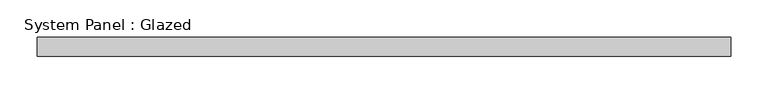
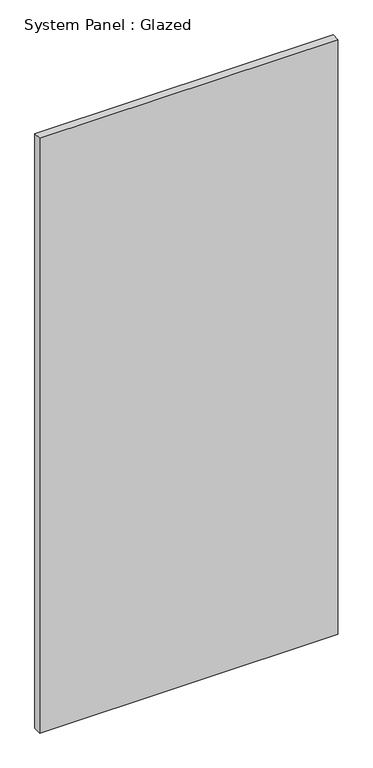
"""IFC4 building model written with IfcOpenShell, lengths in millimetres: plate geometry, System Panel : Glazed."""

from ifc_helpers import new_model, si_unit, origin, origin_with_axes, place, context, project, spatial, polyline, outline, extrude, source, transform, mapped, element, save


def system_panel_glazed_c2d2b348(model_context):
    return source(origin(), model_context, "Body", "SweptSolid", [
        extrude(outline(polyline([(462.5, -49.5), (-462.5, -49.5), (-462.5, -24.5), (462.5, -24.5), (462.5, -49.5)])), origin_with_axes(), (0.0, 0.0, 1.0), 1950.0),
    ])


if __name__ == "__main__":
    model = new_model("IFC4")
    model_context = context("Model", 3, world=origin())
    ifc_project = project(units=[si_unit("LENGTHUNIT", "METRE", prefix="MILLI")], contexts=[model_context])
    site = spatial("IfcSite", under=ifc_project)
    building = spatial("IfcBuilding", under=site)
    placement = place(None, origin())
    system_panel_glazed_shape = system_panel_glazed_c2d2b348(model_context)
    element("IfcPlate", 1, ObjectType="System Panel : Glazed", at=placement, inside=building, context=model_context, shape_type="MappedRepresentation", body=[
        mapped(system_panel_glazed_shape, transform((0.0, 0.0, 0.0), x_axis=(1.0, 0.0, 0.0), y_axis=(0.0, 1.0, 0.0), z_axis=(0.0, 0.0, 1.0))),
    ])
    save(model, "model.ifc")
